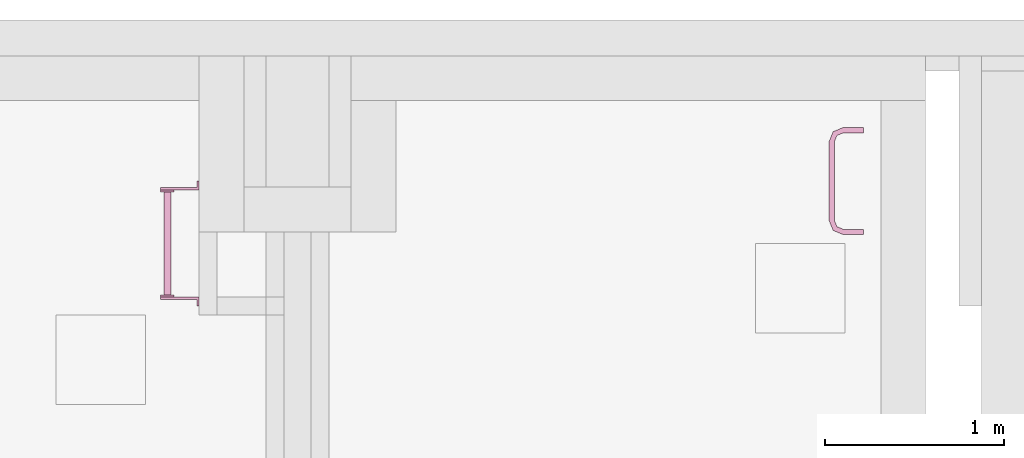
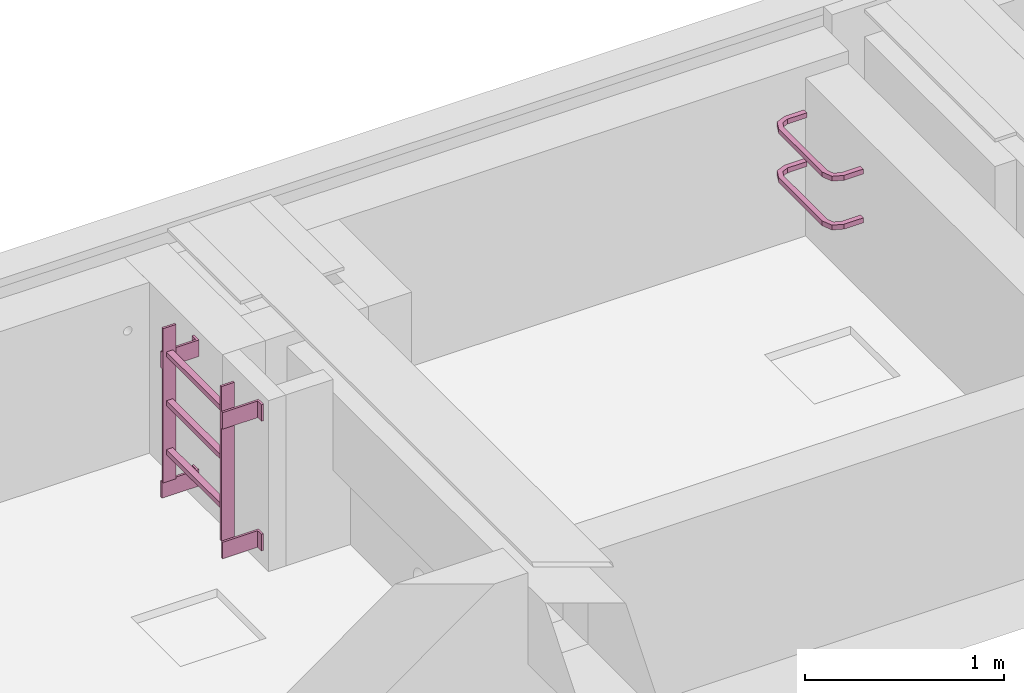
# One storey, part 17 of 17: 2 furnishings.
"""IFC2X3 building model written with IfcOpenShell, lengths in millimetres."""

from ifc_helpers import new_model, entity, si_unit, converted_unit, derived_unit, money_unit, direction, frame, origin_with_axes, place, context, subcontext, project, spatial, faceted_brep, type_object, element, save


model = new_model("IFC2X3")

# Units and contexts
model_context = context("Model", 3, precision=0.01, world=origin_with_axes(), true_north=direction((0.0, 1.0)))
body_context = subcontext(model_context, "Body", "Model", "MODEL_VIEW")
ifc_project = project(units=[si_unit("LENGTHUNIT", "METRE", prefix="MILLI"), si_unit("AREAUNIT", "SQUARE_METRE"), si_unit("VOLUMEUNIT", "CUBIC_METRE"), converted_unit("PLANEANGLEUNIT", "DEGREE", entity("IfcPlaneAngleMeasure", 0.0174532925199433), si_unit("PLANEANGLEUNIT", "RADIAN"), dimensions=[0, 0, 0, 0, 0, 0, 0]), money_unit("EUR"), converted_unit("TIMEUNIT", "Year", entity("IfcTimeMeasure", 31557600.0), si_unit("TIMEUNIT", "SECOND"), dimensions=[0, 0, 1, 0, 0, 0, 0]), si_unit("MASSUNIT", "GRAM", prefix="KILO"), si_unit("THERMODYNAMICTEMPERATUREUNIT", "DEGREE_CELSIUS"), si_unit("LUMINOUSINTENSITYUNIT", "LUMEN"), si_unit("ENERGYUNIT", "JOULE", prefix="MEGA"), derived_unit("THERMALCONDUCTANCEUNIT", [(si_unit("POWERUNIT", "WATT"), 1), (si_unit("LENGTHUNIT", "METRE"), -1), (si_unit("THERMODYNAMICTEMPERATUREUNIT", "KELVIN"), -1)]), derived_unit("SPECIFICHEATCAPACITYUNIT", [(si_unit("ENERGYUNIT", "JOULE"), 1), (si_unit("MASSUNIT", "GRAM", prefix="KILO"), -1), (si_unit("THERMODYNAMICTEMPERATUREUNIT", "KELVIN"), -1)]), derived_unit("MASSDENSITYUNIT", [(si_unit("MASSUNIT", "GRAM", prefix="KILO"), 1), (si_unit("VOLUMEUNIT", "CUBIC_METRE"), -1)])], contexts=[model_context])

# Site, building, storey
site_placement = place(None, origin_with_axes())
site = spatial("IfcSite", under=ifc_project, at=site_placement, Name="<site naam>", CompositionType="ELEMENT")
building_placement = place(site_placement, origin_with_axes())
building = spatial("IfcBuilding", under=site, at=building_placement, Name="<Naam gebouw>", CompositionType="ELEMENT")
storey_placement = place(building_placement, frame((0.0, 0.0, -1100.0), z_axis=(0.0, 0.0, 1.0), x_axis=(1.0, 0.0, 0.0)))
storey = spatial("IfcBuildingStorey", under=building, at=storey_placement, Name="-1 Fundering", CompositionType="ELEMENT", Elevation=-1100.0)

# Furnishings
furnishing_element_type = type_object("IfcFurnishingElementType", Name="Muurladder 27")
furnishing_1_placement = place(storey_placement, frame((43450.00000035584, 19084.95995398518, -70.10003986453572), z_axis=(0.0, 0.0, 1.0), x_axis=(0.0, -1.0, 0.0)))
element("IfcFurnishingElement", 1, at=furnishing_1_placement, inside=storey, type_object=furnishing_element_type, Name="24_wijz. A_Lege", context=body_context, shape_type="Brep", body=[
    faceted_brep([(350.8, 0.0, 101.6), (350.8, 0.0, 203.2), (350.8, -12.7, 203.2), (350.8, -12.7, 101.6), (300.0, 0.0, 101.6), (300.0, 0.0, 203.2), (300.0, -215.9, 203.2), (312.7, -215.9, 203.2), (312.7, -12.7, 203.2), (312.7, -12.7, 101.6), (312.7, -215.9, 101.6), (300.0, -215.9, 101.6)], [[[0, 1, 2, 3]], [[4, 5, 1, 0]], [[1, 5, 6, 7, 8, 2]], [[3, 2, 8, 9]], [[0, 3, 9, 10, 11, 4]], [[11, 6, 5, 4]], [[10, 7, 6, 11]], [[9, 8, 7, 10]]]),
    faceted_brep([(350.8, 0.0, 897.7000398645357), (350.8, 0.0, 999.3000398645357), (350.8, -12.7, 999.3000398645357), (350.8, -12.7, 897.7000398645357), (300.0, 0.0, 897.7000398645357), (300.0, 0.0, 999.3000398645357), (300.0, -215.9, 999.3000398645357), (312.7, -215.9, 999.3000398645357), (312.7, -12.7, 999.3000398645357), (312.7, -12.7, 897.7000398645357), (312.7, -215.9, 897.7000398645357), (300.0, -215.9, 897.7000398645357)], [[[0, 1, 2, 3]], [[4, 5, 1, 0]], [[1, 5, 6, 7, 8, 2]], [[3, 2, 8, 9]], [[0, 3, 9, 10, 11, 4]], [[11, 6, 5, 4]], [[10, 7, 6, 11]], [[9, 8, 7, 10]]]),
    faceted_brep([(-300.0, 0.0, 101.6), (-300.0, 0.0, 203.2), (-300.0, -215.9, 203.2), (-300.0, -215.9, 101.6), (-350.8, 0.0, 101.6), (-350.8, 0.0, 203.2), (-350.8, -12.7, 203.2), (-312.7, -12.7, 203.2), (-312.7, -215.9, 203.2), (-312.7, -215.9, 101.6), (-312.7, -12.7, 101.6), (-350.8, -12.7, 101.6)], [[[0, 1, 2, 3]], [[4, 5, 1, 0]], [[1, 5, 6, 7, 8, 2]], [[3, 2, 8, 9]], [[0, 3, 9, 10, 11, 4]], [[11, 6, 5, 4]], [[10, 7, 6, 11]], [[9, 8, 7, 10]]]),
    faceted_brep([(-300.0, 0.0, 897.7000398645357), (-300.0, 0.0, 999.3000398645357), (-300.0, -215.9, 999.3000398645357), (-300.0, -215.9, 897.7000398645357), (-350.8, 0.0, 897.7000398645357), (-350.8, 0.0, 999.3000398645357), (-350.8, -12.7, 999.3000398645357), (-312.7, -12.7, 999.3000398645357), (-312.7, -215.9, 999.3000398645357), (-312.7, -215.9, 897.7000398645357), (-312.7, -12.7, 897.7000398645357), (-350.8, -12.7, 897.7000398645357)], [[[0, 1, 2, 3]], [[4, 5, 1, 0]], [[1, 5, 6, 7, 8, 2]], [[3, 2, 8, 9]], [[0, 3, 9, 10, 11, 4]], [[11, 6, 5, 4]], [[10, 7, 6, 11]], [[9, 8, 7, 10]]]),
    faceted_brep([(300.0, -215.9, 203.2), (300.0, -215.9, 1151.700039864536), (287.3, -215.9, 1151.700039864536), (287.3, -215.9, 203.2), (300.0, -139.7, 203.2), (300.0, -139.7, 1151.700039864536), (287.3, -139.7, 1151.700039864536), (287.3, -139.7, 203.2)], [[[0, 1, 2, 3]], [[4, 5, 1, 0]], [[1, 5, 6, 2]], [[3, 2, 6, 7]], [[0, 3, 7, 4]], [[7, 6, 5, 4]]]),
    faceted_brep([(-300.0, -139.7, 203.2), (-300.0, -139.7, 1151.700039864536), (-287.3, -139.7, 1151.700039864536), (-287.3, -139.7, 203.2), (-300.0, -215.9, 203.2), (-300.0, -215.9, 1151.700039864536), (-287.3, -215.9, 1151.700039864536), (-287.3, -215.9, 203.2)], [[[0, 1, 2, 3]], [[4, 5, 1, 0]], [[1, 5, 6, 2]], [[3, 2, 6, 7]], [[0, 3, 7, 4]], [[7, 6, 5, 4]]]),
    faceted_brep([(-287.3, -196.85, 371.6), (-287.3, -196.85, 401.6), (-287.3, -158.75, 401.6), (-287.3, -158.75, 371.6), (287.3, -196.85, 371.6), (287.3, -196.85, 401.6), (287.3, -158.75, 401.6), (287.3, -158.75, 371.6)], [[[0, 1, 2, 3]], [[4, 5, 1, 0]], [[1, 5, 6, 2]], [[3, 2, 6, 7]], [[0, 3, 7, 4]], [[7, 6, 5, 4]]]),
    faceted_brep([(-287.3, -196.85, 671.6), (-287.3, -196.85, 701.6), (-287.3, -158.75, 701.6), (-287.3, -158.75, 671.6), (287.3, -196.85, 671.6), (287.3, -196.85, 701.6), (287.3, -158.75, 701.6), (287.3, -158.75, 671.6)], [[[0, 1, 2, 3]], [[4, 5, 1, 0]], [[1, 5, 6, 2]], [[3, 2, 6, 7]], [[0, 3, 7, 4]], [[7, 6, 5, 4]]]),
    faceted_brep([(-287.3, -196.85, 971.6), (-287.3, -196.85, 1001.6), (-287.3, -158.75, 1001.6), (-287.3, -158.75, 971.6), (287.3, -196.85, 971.6), (287.3, -196.85, 1001.6), (287.3, -158.75, 1001.6), (287.3, -158.75, 971.6)], [[[0, 1, 2, 3]], [[4, 5, 1, 0]], [[1, 5, 6, 2]], [[3, 2, 6, 7]], [[0, 3, 7, 4]], [[7, 6, 5, 4]]]),
])
furnishing_2_placement = place(storey_placement, frame((47165.88438913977, 19434.04982472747, -70.00000000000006), z_axis=(0.0, 0.0, 1.0), x_axis=(0.0, -1.0, 0.0)))
element("IfcFurnishingElement", 2, at=furnishing_2_placement, inside=storey, type_object=furnishing_element_type, Name="24_wijz. A_Lege", context=body_context, shape_type="Brep", body=[
    faceted_brep([(300.0, -112.0, 570.0000000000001), (300.0, -112.0, 600.0000000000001), (276.3342279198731, -169.134227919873, 600.0000000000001), (276.3342279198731, -169.134227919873, 570.0000000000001), (300.0, 0.0, 570.0000000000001), (300.0, 0.0, 600.0000000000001), (270.0, 0.0, 600.0000000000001), (270.0, -112.0, 600.0000000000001), (255.1210244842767, -147.9210244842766, 600.0000000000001), (219.2, -162.8, 600.0000000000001), (-219.2, -162.8, 600.0000000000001), (-255.1210244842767, -147.9210244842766, 600.0000000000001), (-270.0, -112.0, 600.0000000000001), (-270.0, 0.0, 600.0000000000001), (-300.0, 0.0, 600.0000000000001), (-300.0, -112.0, 600.0000000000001), (-276.3342279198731, -169.134227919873, 600.0000000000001), (-219.2, -192.8, 600.0000000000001), (219.2, -192.8, 600.0000000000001), (219.2, -192.8, 570.0000000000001), (-219.2, -192.8, 570.0000000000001), (-276.3342279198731, -169.134227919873, 570.0000000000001), (-300.0, -112.0, 570.0000000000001), (-300.0, 0.0, 570.0000000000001), (-270.0, 0.0, 570.0000000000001), (-270.0, -112.0, 570.0000000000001), (-255.1210244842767, -147.9210244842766, 570.0000000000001), (-219.2, -162.8, 570.0000000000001), (219.2, -162.8, 570.0000000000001), (255.1210244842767, -147.9210244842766, 570.0000000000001), (270.0, -112.0, 570.0000000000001), (270.0, 0.0, 570.0000000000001)], [[[0, 1, 2, 3]], [[4, 5, 1, 0]], [[1, 5, 6, 7, 8, 9, 10, 11, 12, 13, 14, 15, 16, 17, 18, 2]], [[3, 2, 18, 19]], [[0, 3, 19, 20, 21, 22, 23, 24, 25, 26, 27, 28, 29, 30, 31, 4]], [[31, 6, 5, 4]], [[30, 7, 6, 31]], [[29, 8, 7, 30]], [[28, 9, 8, 29]], [[27, 10, 9, 28]], [[26, 11, 10, 27]], [[25, 12, 11, 26]], [[24, 13, 12, 25]], [[23, 14, 13, 24]], [[22, 15, 14, 23]], [[21, 16, 15, 22]], [[20, 17, 16, 21]], [[19, 18, 17, 20]]]),
    faceted_brep([(300.0, -112.0, 870.0000000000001), (300.0, -112.0, 900.0000000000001), (276.3342279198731, -169.134227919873, 900.0000000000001), (276.3342279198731, -169.134227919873, 870.0000000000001), (300.0, 0.0, 870.0000000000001), (300.0, 0.0, 900.0000000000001), (270.0, 0.0, 900.0000000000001), (270.0, -112.0, 900.0000000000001), (255.1210244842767, -147.9210244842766, 900.0000000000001), (219.2, -162.8, 900.0000000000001), (-219.2, -162.8, 900.0000000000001), (-255.1210244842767, -147.9210244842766, 900.0000000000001), (-270.0, -112.0, 900.0000000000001), (-270.0, 0.0, 900.0000000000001), (-300.0, 0.0, 900.0000000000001), (-300.0, -112.0, 900.0000000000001), (-276.3342279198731, -169.134227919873, 900.0000000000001), (-219.2, -192.8, 900.0000000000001), (219.2, -192.8, 900.0000000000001), (219.2, -192.8, 870.0000000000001), (-219.2, -192.8, 870.0000000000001), (-276.3342279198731, -169.134227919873, 870.0000000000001), (-300.0, -112.0, 870.0000000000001), (-300.0, 0.0, 870.0000000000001), (-270.0, 0.0, 870.0000000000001), (-270.0, -112.0, 870.0000000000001), (-255.1210244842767, -147.9210244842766, 870.0000000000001), (-219.2, -162.8, 870.0000000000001), (219.2, -162.8, 870.0000000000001), (255.1210244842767, -147.9210244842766, 870.0000000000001), (270.0, -112.0, 870.0000000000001), (270.0, 0.0, 870.0000000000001)], [[[0, 1, 2, 3]], [[4, 5, 1, 0]], [[1, 5, 6, 7, 8, 9, 10, 11, 12, 13, 14, 15, 16, 17, 18, 2]], [[3, 2, 18, 19]], [[0, 3, 19, 20, 21, 22, 23, 24, 25, 26, 27, 28, 29, 30, 31, 4]], [[31, 6, 5, 4]], [[30, 7, 6, 31]], [[29, 8, 7, 30]], [[28, 9, 8, 29]], [[27, 10, 9, 28]], [[26, 11, 10, 27]], [[25, 12, 11, 26]], [[24, 13, 12, 25]], [[23, 14, 13, 24]], [[22, 15, 14, 23]], [[21, 16, 15, 22]], [[20, 17, 16, 21]], [[19, 18, 17, 20]]]),
])

save(model, "model.ifc")
